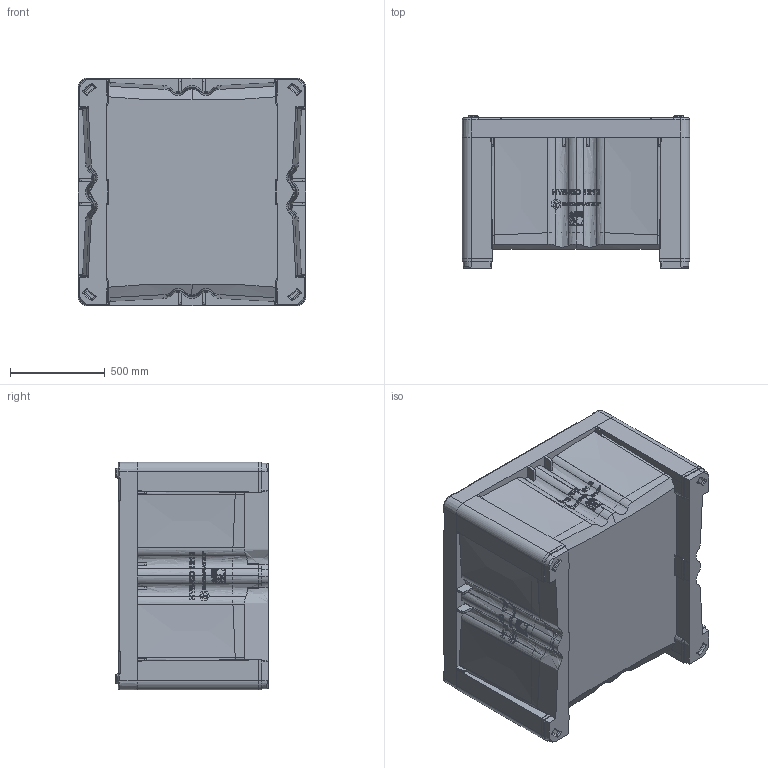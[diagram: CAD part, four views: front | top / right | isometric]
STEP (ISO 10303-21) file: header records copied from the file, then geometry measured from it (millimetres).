
FILE_DESCRIPTION (( 'STEP AP214' ), '1' );
FILE_NAME ('1112xxxxxxxx 1212-790 Hybrid Block 2way.STEP', '2018-08-28T23:15:32', ( '' ), ( '' ), 'SwSTEP 2.0', 'SolidWorks 2018', '' );
FILE_SCHEMA (( 'AUTOMOTIVE_DESIGN' ));
Products named in the file (1): 1112xxxxxxxx 1212-790 Hybrid Block 2way
Bounding box: 1200 x 802.5 x 1200 mm (x, y, z)
Volume: 131559628.2 mm3; surface area: 11264172.3 mm2
Topology: 7 solids, 7 shells, 6213 faces, 16954 edges, 11241 vertices
Faces by surface type: plane 3039, bspline 2656, cylinder 480, sphere 18, cone 16, torus 4
Entity records: 335554 total; most frequent: CARTESIAN_POINT 204825, ORIENTED_EDGE 33876, EDGE_CURVE 16938, DIRECTION 14880, VERTEX_POINT 11241, B_SPLINE_CURVE_WITH_KNOTS 9328, VECTOR 7328, LINE 7328
